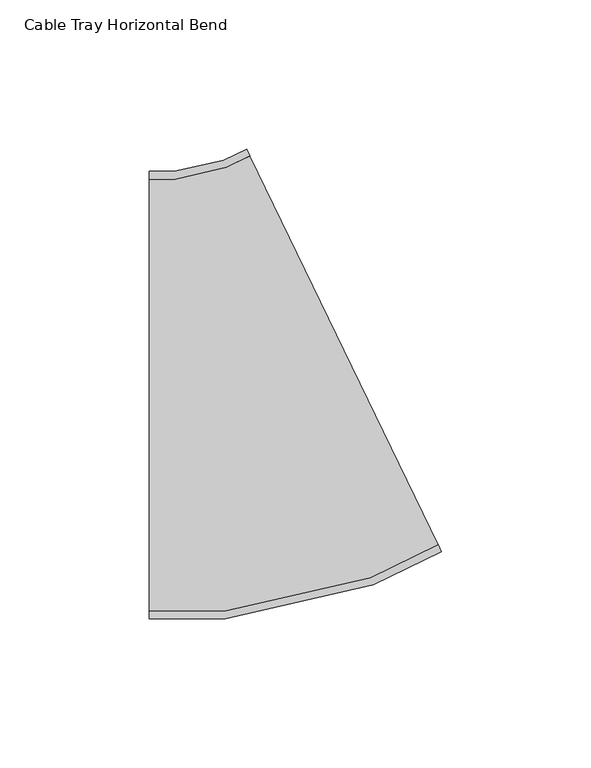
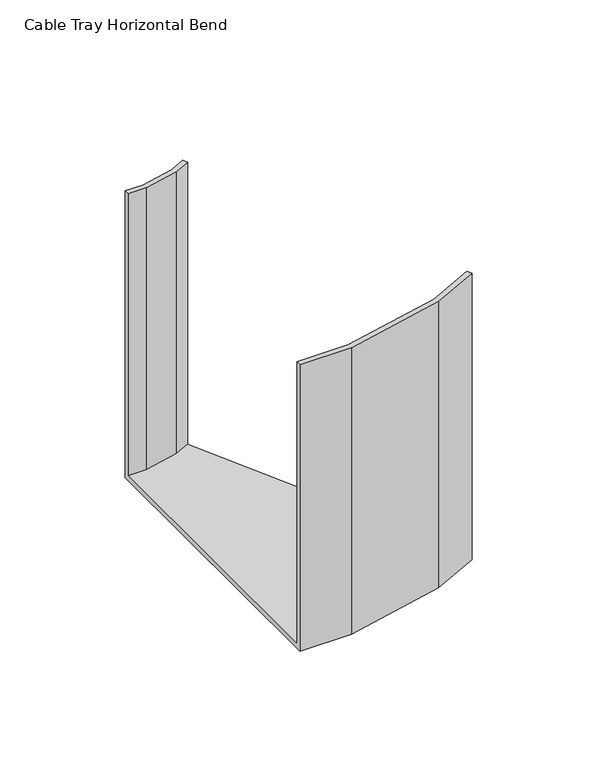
"""IFC4 building model written with IfcOpenShell, lengths in millimetres: cable carrier fitting geometry, Cable Tray Horizontal Bend : ELEC_ELV_TKG_N2402."""

from ifc_helpers import new_model, si_unit, origin, place, context, project, spatial, faceted_brep, source, transform, mapped, element, save


def cable_tray_horizontal_bend_a4984b26(model_context):
    return source(origin(), model_context, "Body", "Brep", [
        faceted_brep([(-34.3917392, -75.0, -75.0), (-34.3917392, -75.0, 75.0), (-34.3917392, -72.46, 75.0), (-34.3917392, -72.46, -72.46), (-34.3917392, 72.46, -72.46), (-34.3917392, 72.46, 75.0), (-34.3917392, 75.0, 75.0), (-34.3917392, 75.0, -75.0), (63.6305896, -52.5256109, -75.0), (-1.7176296, 82.491463, -75.0), (-1.7176296, 82.491463, 75.0), (-0.6110664, 80.2051739, 75.0), (-0.6110664, 80.2051739, -72.46), (62.5240264, -50.2393217, -72.46), (62.5240264, -50.2393217, 75.0), (63.6305896, -52.5256109, 75.0), (-8.9282927, -75.0, -75.0), (-8.9282927, -75.0, 75.0), (40.7105893, -63.6188834, 75.0), (39.8627675, -61.2073636, 75.0), (-9.2157468, -72.46, 75.0), (-9.2157468, -72.46, -72.46), (39.8627675, -61.2073636, -72.46), (-8.5098079, 76.3821857, -72.46), (-25.6164697, 72.46, -72.46), (-25.6164697, 72.46, 75.0), (-8.5098079, 76.3821857, 75.0), (-9.3576297, 78.7937055, 75.0), (-25.9039237, 75.0, 75.0), (-25.9039237, 75.0, -75.0), (-9.3576297, 78.7937055, -75.0), (40.7105893, -63.6188834, -75.0)], [[[0, 1, 2, 3, 4, 5, 6, 7]], [[8, 9, 10, 11, 12, 13, 14, 15]], [[1, 0, 16, 17]], [[2, 1, 17, 18, 15, 14, 19, 20]], [[3, 2, 20, 21]], [[4, 3, 21, 22, 13, 12, 23, 24]], [[5, 4, 24, 25]], [[6, 5, 25, 26, 11, 10, 27, 28]], [[7, 6, 28, 29]], [[0, 7, 29, 30, 9, 8, 31, 16]], [[17, 16, 31, 18]], [[21, 20, 19, 22]], [[25, 24, 23, 26]], [[29, 28, 27, 30]], [[18, 31, 8, 15]], [[22, 19, 14, 13]], [[26, 23, 12, 11]], [[30, 27, 10, 9]]]),
    ])


if __name__ == "__main__":
    model = new_model("IFC4")
    model_context = context("Model", 3, world=origin())
    ifc_project = project(units=[si_unit("LENGTHUNIT", "METRE", prefix="MILLI")], contexts=[model_context])
    site = spatial("IfcSite", under=ifc_project)
    building = spatial("IfcBuilding", under=site)
    placement = place(None, origin())
    cable_tray_horizontal_bend_shape = cable_tray_horizontal_bend_a4984b26(model_context)
    element("IfcCableCarrierFitting", 1, ObjectType="Cable Tray Horizontal Bend : ELEC_ELV_TKG_N2402", at=placement, inside=building, context=model_context, shape_type="MappedRepresentation", body=[
        mapped(cable_tray_horizontal_bend_shape, transform((0.0, 0.0, 0.0), x_axis=(1.0, 0.0, 0.0), y_axis=(0.0, 1.0, 0.0), z_axis=(0.0, 0.0, 1.0))),
    ])
    save(model, "model.ifc")
